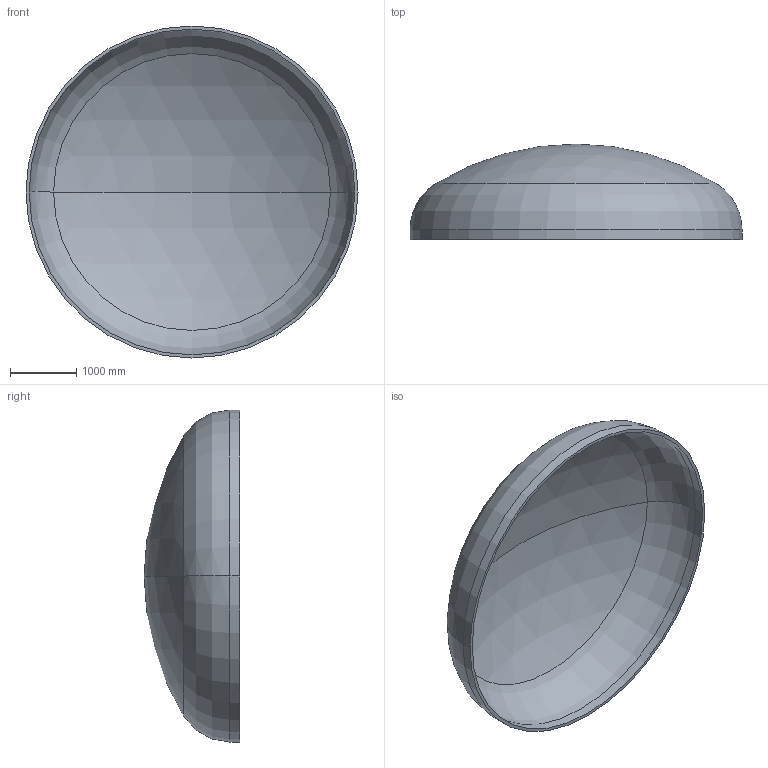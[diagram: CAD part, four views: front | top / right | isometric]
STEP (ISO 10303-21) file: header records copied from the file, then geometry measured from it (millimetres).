
FILE_DESCRIPTION (( 'STEP AP203' ), '1' );
FILE_NAME ('DIN 28013 Korbbogenform_-_Boden DIN 28013 - 5000 x 150 - I - s=47.step', '2016-07-02T00:33:09', ( '' ), ( '' ), 'SwSTEP 2.0', 'SolidWorks 2013', '' );
FILE_SCHEMA (( 'CONFIG_CONTROL_DESIGN' ));
Length unit declared in the file: millimetre
Products named in the file (1): DIN 28013 Korbbogenform_-_Boden DIN 28013 - 5000 x 150 - I - s=47
Bounding box: 5000 x 1440.12 x 5000 mm (x, y, z)
Volume: 1372035391.8 mm3; surface area: 59120424.2 mm2
Topology: 1 solids, 1 shells, 13 faces, 24 edges, 14 vertices
Faces by surface type: torus 4, cylinder 4, sphere 4, plane 1
Entity records: 407 total; most frequent: DIRECTION 72, CARTESIAN_POINT 52, ORIENTED_EDGE 48, AXIS2_PLACEMENT_3D 34, EDGE_CURVE 24, CIRCLE 20, VERTEX_POINT 14, EDGE_LOOP 14
